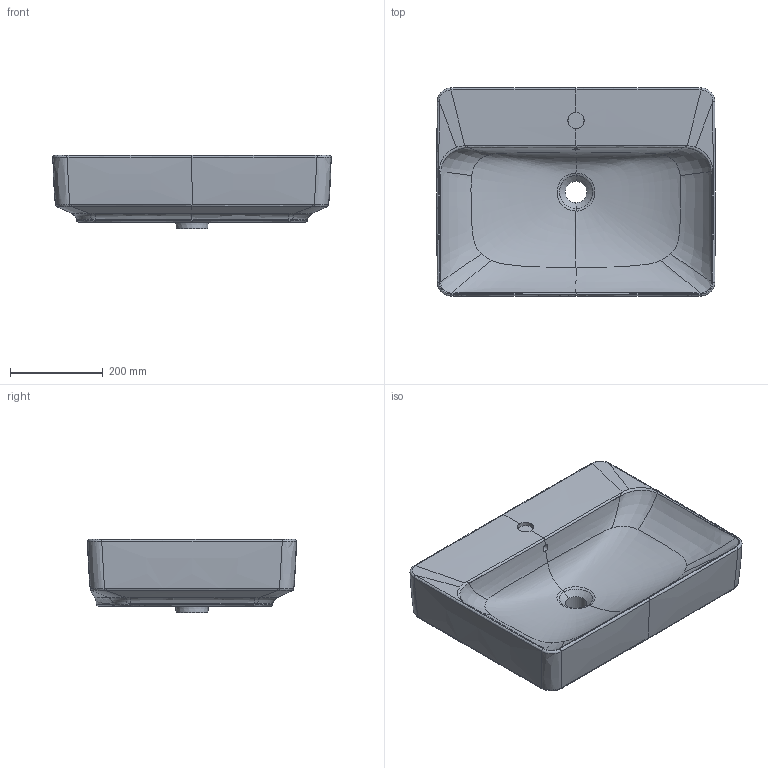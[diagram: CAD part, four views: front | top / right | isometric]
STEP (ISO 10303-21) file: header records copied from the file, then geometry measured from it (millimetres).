
FILE_DESCRIPTION(/* description */ (''),/* implementation_level */ '2;1');
FILE_NAME(/* name */ 'C:\Planerdaten\Export PLA\500.780.01.1\stp\500780.stp',/* time_stamp */ '2020-02-27T11:13:33+01:00',/* author */ ('JANAN'),/* organization */ (''),/* preprocessor_version */ 'ST-DEVELOPER v16.13',/* originating_system */ 'Autodesk Inventor 2018',/* authorisation */ '');
FILE_SCHEMA (('AUTOMOTIVE_DESIGN { 1 0 10303 214 3 1 1 }'));
Length unit declared in the file: millimetre
Products named in the file (1): AWT Ge+VaF r-e B60 m/ ÜLF m/ HLo
Bounding box: 599.86 x 450 x 158.02 mm (x, y, z)
Volume: 24067857.1 mm3; surface area: 836604.8 mm2
Topology: 1 solids, 1 shells, 146 faces, 337 edges, 195 vertices
Faces by surface type: bspline 111, plane 12, torus 11, cone 9, cylinder 3
Full cylindrical faces by diameter (mm): 15 x1, 35 x1, 46 x1
Entity records: 28386 total; most frequent: CARTESIAN_POINT 25417, ORIENTED_EDGE 638, DIRECTION 470, EDGE_CURVE 319, AXIS2_PLACEMENT_3D 220, VERTEX_POINT 187, CIRCLE 184, EDGE_LOOP 160
